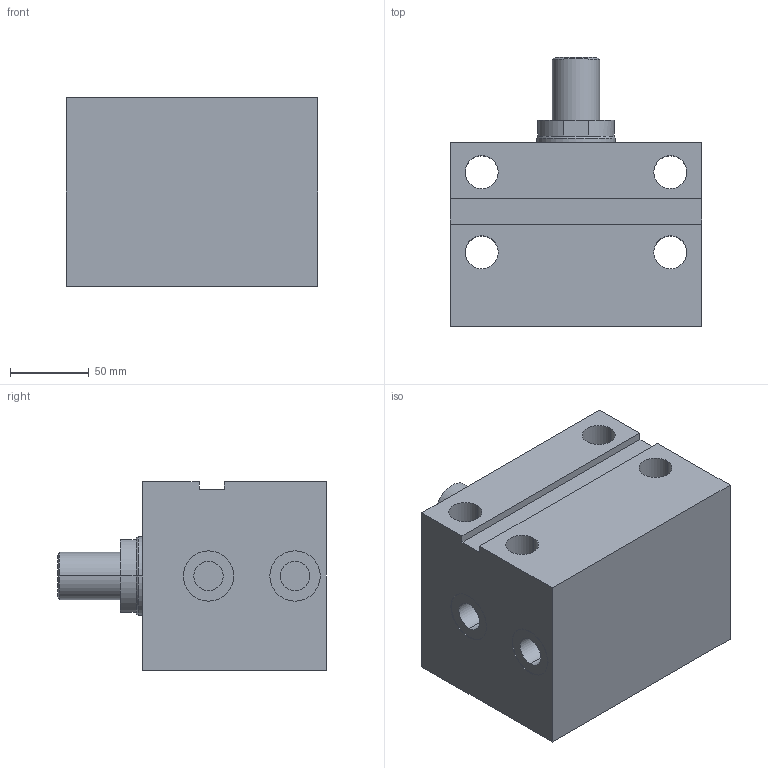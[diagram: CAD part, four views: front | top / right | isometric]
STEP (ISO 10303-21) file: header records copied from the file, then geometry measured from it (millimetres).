
FILE_DESCRIPTION (( 'STEP AP203' ), '1' );
FILE_NAME ('GERMA_Blockzylinder_601-080-032-A.STEP', '2015-10-09T08:48:06', ( '' ), ( '' ), 'SwSTEP 2.0', 'SolidWorks 2015', '' );
FILE_SCHEMA (( 'CONFIG_CONTROL_DESIGN' ));
Length unit declared in the file: millimetre
Products named in the file (3): GH-600-080_GH-601-080-032; Kolben 60x-080_Kolben DU.80-Hub32-AG; GERMA_Blockzylinder_601-080-032-A
Assembly tree (2 placements, depth 2):
  GERMA_Blockzylinder_601-080-032-A
    GH-600-080_GH-601-080-032
    Kolben 60x-080_Kolben DU.80-Hub32-AG
Bounding box: 160 x 171 x 120 mm (x, y, z)
Volume: 2012770.6 mm3; surface area: 199240.8 mm2
Topology: 2 solids, 2 shells, 73 faces, 162 edges, 101 vertices
Faces by surface type: cylinder 35, plane 26, cone 12
Entity records: 2330 total; most frequent: DIRECTION 395, CARTESIAN_POINT 337, ORIENTED_EDGE 316, AXIS2_PLACEMENT_3D 159, EDGE_CURVE 158, VERTEX_POINT 101, EDGE_LOOP 93, CIRCLE 81
